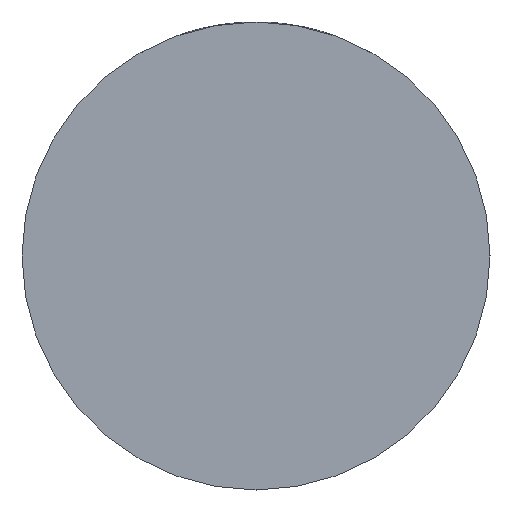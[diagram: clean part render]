
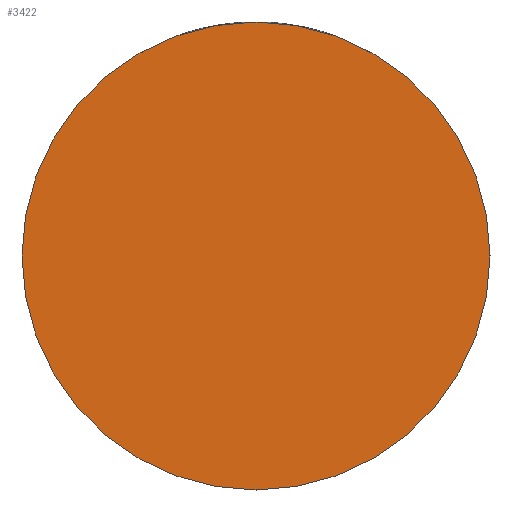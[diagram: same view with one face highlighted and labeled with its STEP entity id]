
A CAD part, front view. The second image highlights one B-rep face of the part: STEP entity #3422.
In plain terms, the highlighted planar face has unit normal (0, -1, 0).
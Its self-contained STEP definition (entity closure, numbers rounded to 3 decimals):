
#108 = DIRECTION ( 'NONE',  ( -1., 0., 0. ) ) ;
#190 = CARTESIAN_POINT ( 'NONE',  ( 0., -21., 0. ) ) ;
#808 = AXIS2_PLACEMENT_3D ( 'NONE', #2507, #2179, #108 ) ;
#1032 = EDGE_CURVE ( 'NONE', #1041, #2748, #3568, .T. ) ;
#1041 = VERTEX_POINT ( 'NONE', #3279 ) ;
#1224 = DIRECTION ( 'NONE',  ( -1., 0., 0. ) ) ;
#1437 = FACE_OUTER_BOUND ( 'NONE', #2803, .T. ) ;
#1744 = EDGE_CURVE ( 'NONE', #2748, #1041, #4720, .T. ) ;
#1790 = ORIENTED_EDGE ( 'NONE', *, *, #1032, .F. ) ;
#2179 = DIRECTION ( 'NONE',  ( 0., 1., 0. ) ) ;
#2507 = CARTESIAN_POINT ( 'NONE',  ( 0., -21., 0. ) ) ;
#2748 = VERTEX_POINT ( 'NONE', #4140 ) ;
#2773 = DIRECTION ( 'NONE',  ( 0., -1., 0. ) ) ;
#2803 = EDGE_LOOP ( 'NONE', ( #3957, #1790 ) ) ;
#3113 = DIRECTION ( 'NONE',  ( 1., 0., 0. ) ) ;
#3279 = CARTESIAN_POINT ( 'NONE',  ( 34., -21., 0. ) ) ;
#3306 = CARTESIAN_POINT ( 'NONE',  ( 0., -21., 0. ) ) ;
#3422 = ADVANCED_FACE ( 'NONE', ( #1437 ), #4844, .T. ) ;
#3568 = CIRCLE ( 'NONE', #4002, 34. ) ;
#3957 = ORIENTED_EDGE ( 'NONE', *, *, #1744, .F. ) ;
#4002 = AXIS2_PLACEMENT_3D ( 'NONE', #3306, #4528, #1224 ) ;
#4140 = CARTESIAN_POINT ( 'NONE',  ( -34., -21., 0. ) ) ;
#4528 = DIRECTION ( 'NONE',  ( 0., 1., 0. ) ) ;
#4550 = AXIS2_PLACEMENT_3D ( 'NONE', #190, #2773, #3113 ) ;
#4720 = CIRCLE ( 'NONE', #808, 34. ) ;
#4844 = PLANE ( 'NONE',  #4550 ) ;
